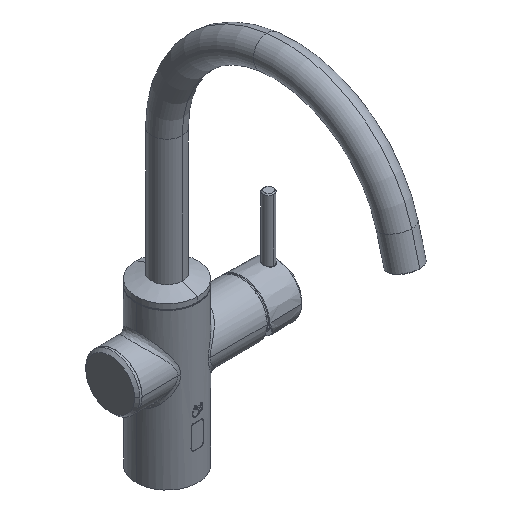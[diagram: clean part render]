
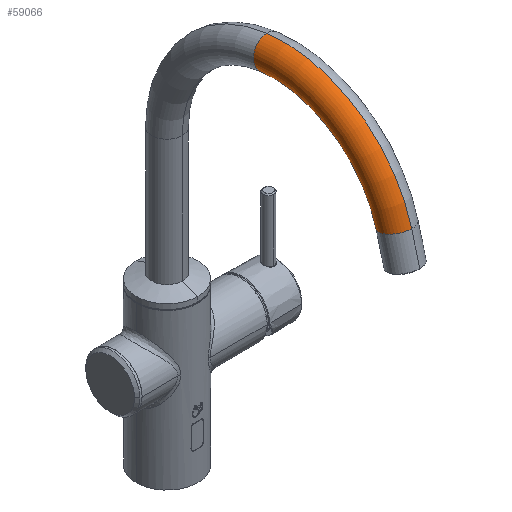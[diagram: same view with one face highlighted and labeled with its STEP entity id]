
A CAD part, isometric view. The second image highlights one B-rep face of the part: STEP entity #59066.
In plain terms, the highlighted toroidal (fillet/blend) face has major radius 108 mm and minor radius 14 mm.
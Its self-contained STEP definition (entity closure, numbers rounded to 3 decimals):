
#58398=CARTESIAN_POINT('',(212.32,159.952,0.));
#58399=DIRECTION('',(-0.259,0.966,0.));
#58400=DIRECTION('',(-0.966,-0.259,0.));
#58401=AXIS2_PLACEMENT_3D('',#58398,#58399,#58400);
#58403=CARTESIAN_POINT('',(93.903,239.076,0.));
#58404=DIRECTION('',(-0.991,-0.131,0.));
#58405=DIRECTION('',(0.131,-0.991,0.));
#58406=AXIS2_PLACEMENT_3D('',#58403,#58404,#58405);
#58421=CARTESIAN_POINT('',(108.,132.,0.));
#58422=DIRECTION('',(0.,0.,-1.));
#58423=DIRECTION('',(-0.131,0.991,0.));
#58424=AXIS2_PLACEMENT_3D('',#58421,#58422,#58423);
#58431=CARTESIAN_POINT('',(108.,132.,0.));
#58432=DIRECTION('',(0.,0.,-1.));
#58433=DIRECTION('',(-0.131,0.991,0.));
#58434=AXIS2_PLACEMENT_3D('',#58431,#58432,#58433);
#58738=CARTESIAN_POINT('',(198.797,156.329,0.));
#58739=VERTEX_POINT('',#58738);
#58740=CARTESIAN_POINT('',(225.843,163.576,0.));
#58741=VERTEX_POINT('',#58740);
#58788=CARTESIAN_POINT('',(92.076,252.956,0.));
#58789=VERTEX_POINT('',#58788);
#58790=CARTESIAN_POINT('',(95.731,225.196,0.));
#58791=VERTEX_POINT('',#58790);
#59052=CARTESIAN_POINT('',(108.,132.,0.));
#59053=DIRECTION('',(0.,0.,-1.));
#59054=DIRECTION('',(-1.,0.,0.));
#59055=AXIS2_PLACEMENT_3D('',#59052,#59053,#59054);
#59056=TOROIDAL_SURFACE('',#59055,108.,14.);
#59058=ORIENTED_EDGE('',*,*,#59057,.F.);
#59060=ORIENTED_EDGE('',*,*,#59059,.F.);
#59061=ORIENTED_EDGE('',*,*,#58976,.T.);
#59063=ORIENTED_EDGE('',*,*,#59062,.T.);
#59064=EDGE_LOOP('',(#59058,#59060,#59061,#59063));
#59065=FACE_OUTER_BOUND('',#59064,.F.);
#59066=ADVANCED_FACE('',(#59065),#59056,.T.);
#58402=CIRCLE('',#58401,14.);
#58407=CIRCLE('',#58406,14.);
#58425=CIRCLE('',#58424,122.);
#58435=CIRCLE('',#58434,94.);
#58976=EDGE_CURVE('',#58791,#58789,#58407,.T.);
#59057=EDGE_CURVE('',#58739,#58741,#58402,.T.);
#59059=EDGE_CURVE('',#58791,#58739,#58435,.T.);
#59062=EDGE_CURVE('',#58789,#58741,#58425,.T.);
